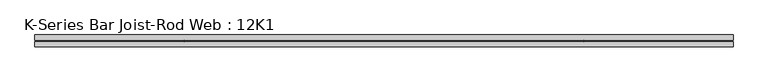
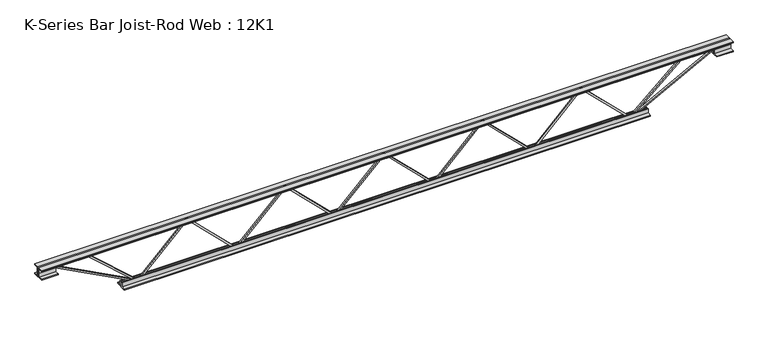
"""IFC4 building model written with IfcOpenShell, lengths in millimetres: beam geometry, K-Series Bar Joist-Rod Web : 12K1."""

from ifc_helpers import new_model, si_unit, frame, origin, place, context, project, spatial, polyline, outline, extrude, source, transform, mapped, element, save


def k_series_bar_joist_rod_web_12k1_97b3de8a(model_context):
    return source(origin(), model_context, "Body", "SweptSolid", [
        extrude(outline(polyline([(-141.2875, 302.73625), (-150.8125, 302.73625), (-150.8125, 307.8636533), (141.2875, 604.2499033), (141.2875, 606.6950967), (-150.8125, 903.0813467), (-150.8125, 908.20875), (-141.2875, 908.20875), (-141.2875, 906.9861533), (150.8125, 610.5999033), (150.8125, 600.3450967), (-141.2875, 303.9588467), (-141.2875, 302.73625)])), frame((0.0, -4.7625, 0.0), z_axis=(0.0, 1.0, 0.0), x_axis=(0.0, 0.0, 1.0)), (0.0, 0.0, 1.0), 9.525),
        extrude(outline(polyline([(-141.2875, -302.73625), (-150.8125, -302.73625), (-150.8125, -297.6088467), (141.2875, -1.2225967), (141.2875, 1.2225967), (-150.8125, 297.6088467), (-150.8125, 302.73625), (-141.2875, 302.73625), (-141.2875, 301.5136533), (150.8125, 5.1274033), (150.8125, -5.1274033), (-141.2875, -301.5136533), (-141.2875, -302.73625)])), frame((0.0, -4.7625, 0.0), z_axis=(0.0, 1.0, 0.0), x_axis=(0.0, 0.0, 1.0)), (0.0, 0.0, 1.0), 9.525),
        extrude(outline(polyline([(-141.2875, -908.20875), (-150.8125, -908.20875), (-150.8125, -903.0813467), (141.2875, -606.6950967), (141.2875, -604.2499033), (-150.8125, -307.8636533), (-150.8125, -302.73625), (-141.2875, -302.73625), (-141.2875, -303.9588467), (150.8125, -600.3450967), (150.8125, -610.5999033), (-141.2875, -906.9861533), (-141.2875, -908.20875)])), frame((0.0, -4.7625, 0.0), z_axis=(0.0, 1.0, 0.0), x_axis=(0.0, 0.0, 1.0)), (0.0, 0.0, 1.0), 9.525),
        extrude(outline(polyline([(-141.2875, 908.20875), (-150.8125, 908.20875), (-150.8125, 913.3361533), (141.2875, 1209.7224033), (141.2875, 1212.1675967), (-150.8125, 1508.5538467), (-150.8125, 1513.68125), (-141.2875, 1513.68125), (-141.2875, 1512.4586533), (150.8125, 1216.0724033), (150.8125, 1205.8175967), (-141.2875, 909.4313467), (-141.2875, 908.20875)])), frame((0.0, -4.7625, 0.0), z_axis=(0.0, 1.0, 0.0), x_axis=(0.0, 0.0, 1.0)), (0.0, 0.0, 1.0), 9.525),
        extrude(outline(polyline([(-141.2875, -1513.68125), (-150.8125, -1513.68125), (-150.8125, -1508.5538467), (141.2875, -1212.1675967), (141.2875, -1209.7224033), (-150.8125, -913.3361533), (-150.8125, -908.20875), (-141.2875, -908.20875), (-141.2875, -909.4313467), (150.8125, -1205.8175967), (150.8125, -1216.0724033), (-141.2875, -1512.4586533), (-141.2875, -1513.68125)])), frame((0.0, -4.7625, 0.0), z_axis=(0.0, 1.0, 0.0), x_axis=(0.0, 0.0, 1.0)), (0.0, 0.0, 1.0), 9.525),
        extrude(outline(polyline([(4.7625, 152.4), (36.5125, 152.4), (36.5125, 146.05), (11.1125, 146.05), (11.1125, 120.65), (4.7625, 120.65), (4.7625, 152.4)])), frame((-2123.28125, 0.0, 0.0), z_axis=(1.0, 0.0, 0.0), x_axis=(0.0, 1.0, 0.0)), (0.0, 0.0, 1.0), 4246.5625),
        extrude(outline(polyline([(-4.7625, 152.4), (-4.7625, 120.65), (-11.1125, 120.65), (-11.1125, 146.05), (-36.5125, 146.05), (-36.5125, 152.4), (-4.7625, 152.4)])), frame((-2123.28125, 0.0, 0.0), z_axis=(1.0, 0.0, 0.0), x_axis=(0.0, 1.0, 0.0)), (0.0, 0.0, 1.0), 4246.5625),
        extrude(outline(polyline([(-4.7625, 88.9), (-36.5125, 88.9), (-36.5125, 95.25), (-11.1125, 95.25), (-11.1125, 120.65), (-4.7625, 120.65), (-4.7625, 88.9)])), frame((-2123.28125, 0.0, 0.0), z_axis=(1.0, 0.0, 0.0), x_axis=(0.0, 1.0, 0.0)), (0.0, 0.0, 1.0), 101.6),
        extrude(outline(polyline([(36.5125, 88.9), (4.7625, 88.9), (4.7625, 120.65), (11.1125, 120.65), (11.1125, 95.25), (36.5125, 95.25), (36.5125, 88.9)])), frame((-2123.28125, 0.0, 0.0), z_axis=(1.0, 0.0, 0.0), x_axis=(0.0, 1.0, 0.0)), (0.0, 0.0, 1.0), 101.6),
        extrude(outline(polyline([(4.7625, 88.9), (4.7625, 120.65), (11.1125, 120.65), (11.1125, 95.25), (36.5125, 95.25), (36.5125, 88.9), (4.7625, 88.9)])), frame((2021.68125, 0.0, 0.0), z_axis=(1.0, 0.0, 0.0), x_axis=(0.0, 1.0, 0.0)), (0.0, 0.0, 1.0), 101.6),
        extrude(outline(polyline([(-4.7625, 88.9), (-36.5125, 88.9), (-36.5125, 95.25), (-11.1125, 95.25), (-11.1125, 120.65), (-4.7625, 120.65), (-4.7625, 88.9)])), frame((2021.68125, 0.0, 0.0), z_axis=(1.0, 0.0, 0.0), x_axis=(0.0, 1.0, 0.0)), (0.0, 0.0, 1.0), 101.6),
        extrude(outline(polyline([(4.7625, -152.4), (4.7625, -120.65), (11.1125, -120.65), (11.1125, -146.05), (36.5125, -146.05), (36.5125, -152.4), (4.7625, -152.4)])), frame((-1615.28125, 0.0, 0.0), z_axis=(1.0, 0.0, 0.0), x_axis=(0.0, 1.0, 0.0)), (0.0, 0.0, 1.0), 3230.5625),
        extrude(outline(polyline([(-4.7625, -152.4), (-36.5125, -152.4), (-36.5125, -146.05), (-11.1125, -146.05), (-11.1125, -120.65), (-4.7625, -120.65), (-4.7625, -152.4)])), frame((-1615.28125, 0.0, 0.0), z_axis=(1.0, 0.0, 0.0), x_axis=(0.0, 1.0, 0.0)), (0.0, 0.0, 1.0), 3230.5625),
        extrude(outline(polyline([(0.0, -9.525), (0.0, 0.0), (573.7533355, 0.0), (573.7533355, -9.525), (0.0, -9.525)])), frame((-2023.8950214, 4.7625, 116.4332925), z_axis=(0.4648338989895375, 0.0, 0.8853979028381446), x_axis=(0.8853979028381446, 0.0, -0.4648338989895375)), (0.0, 0.0, 1.0), 9.525),
        extrude(outline(polyline([(0.0, -9.525), (0.0, 0.0), (403.4577141, 0.0), (403.4577141, -9.525), (0.0, -9.525)])), frame((-1819.5656831, 4.7625, 117.0764374), z_axis=(0.6610358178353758, 0.0, 0.7503543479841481), x_axis=(0.7503543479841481, 0.0, -0.6610358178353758)), (0.0, 0.0, 1.0), 9.525),
        extrude(outline(polyline([(0.0, -9.525), (0.0, 0.0), (573.7533355, 0.0), (573.7533355, -9.525), (0.0, -9.525)])), frame((2023.8950214, -4.7625, 116.4332925), z_axis=(-0.4648338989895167, 0.0, 0.8853979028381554), x_axis=(-0.8853979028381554, 0.0, -0.4648338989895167)), (0.0, 0.0, 1.0), 9.525),
        extrude(outline(polyline([(0.0, -9.525), (0.0, 0.0), (403.4577141, 0.0), (403.4577141, -9.525), (0.0, -9.525)])), frame((1819.5656831, -4.7625, 117.0764374), z_axis=(-0.6610358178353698, 0.0, 0.7503543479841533), x_axis=(-0.7503543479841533, 0.0, -0.6610358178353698)), (0.0, 0.0, 1.0), 9.525),
    ])


if __name__ == "__main__":
    model = new_model("IFC4")
    model_context = context("Model", 3, world=origin())
    ifc_project = project(units=[si_unit("LENGTHUNIT", "METRE", prefix="MILLI")], contexts=[model_context])
    site = spatial("IfcSite", under=ifc_project)
    building = spatial("IfcBuilding", under=site)
    placement = place(None, origin())
    k_series_bar_joist_rod_web_12k1_shape = k_series_bar_joist_rod_web_12k1_97b3de8a(model_context)
    element("IfcBeam", 1, ObjectType="K-Series Bar Joist-Rod Web : 12K1", at=placement, inside=building, context=model_context, shape_type="MappedRepresentation", body=[
        mapped(k_series_bar_joist_rod_web_12k1_shape, transform((0.0, 0.0, 0.0), x_axis=(1.0, 0.0, 0.0), y_axis=(0.0, 1.0, 0.0), z_axis=(0.0, 0.0, 1.0))),
    ])
    save(model, "model.ifc")
